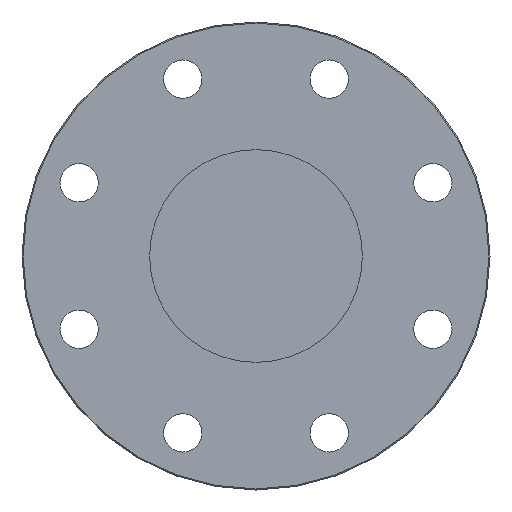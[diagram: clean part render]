
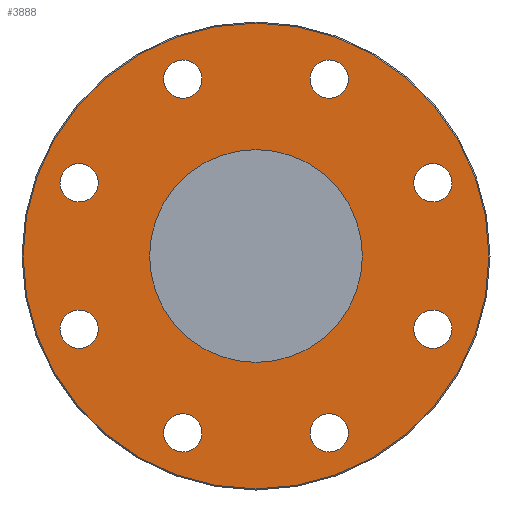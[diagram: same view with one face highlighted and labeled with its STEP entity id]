
A CAD part, left-side view. The second image highlights one B-rep face of the part: STEP entity #3888.
In plain terms, the highlighted planar face has unit normal (-1, 0, 0).
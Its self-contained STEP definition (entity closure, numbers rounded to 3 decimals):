
#137=CIRCLE('',#4116,9.);
#138=CIRCLE('',#4117,9.);
#140=CIRCLE('',#4121,9.);
#141=CIRCLE('',#4122,9.);
#143=CIRCLE('',#4126,9.);
#144=CIRCLE('',#4127,9.);
#146=CIRCLE('',#4131,9.);
#147=CIRCLE('',#4132,9.);
#149=CIRCLE('',#4136,9.);
#150=CIRCLE('',#4137,9.);
#152=CIRCLE('',#4141,9.);
#153=CIRCLE('',#4142,9.);
#155=CIRCLE('',#4146,9.);
#156=CIRCLE('',#4147,9.);
#158=CIRCLE('',#4151,9.);
#159=CIRCLE('',#4152,9.);
#173=CIRCLE('',#4174,109.5);
#174=CIRCLE('',#4176,50.);
#964=FACE_BOUND('',#1429,.T.);
#965=FACE_BOUND('',#1430,.T.);
#966=FACE_BOUND('',#1431,.T.);
#967=FACE_BOUND('',#1432,.T.);
#968=FACE_BOUND('',#1433,.T.);
#969=FACE_BOUND('',#1434,.T.);
#970=FACE_BOUND('',#1435,.T.);
#971=FACE_BOUND('',#1436,.T.);
#972=FACE_BOUND('',#1437,.T.);
#1174=FACE_OUTER_BOUND('',#1428,.T.);
#1428=EDGE_LOOP('',(#3514));
#1429=EDGE_LOOP('',(#3515,#3516));
#1430=EDGE_LOOP('',(#3517,#3518));
#1431=EDGE_LOOP('',(#3519,#3520));
#1432=EDGE_LOOP('',(#3521,#3522));
#1433=EDGE_LOOP('',(#3523,#3524));
#1434=EDGE_LOOP('',(#3525,#3526));
#1435=EDGE_LOOP('',(#3527,#3528));
#1436=EDGE_LOOP('',(#3529,#3530));
#1437=EDGE_LOOP('',(#3531));
#1860=VERTEX_POINT('',#6943);
#1861=VERTEX_POINT('',#6944);
#1863=VERTEX_POINT('',#6953);
#1864=VERTEX_POINT('',#6954);
#1866=VERTEX_POINT('',#6963);
#1867=VERTEX_POINT('',#6964);
#1869=VERTEX_POINT('',#6973);
#1870=VERTEX_POINT('',#6974);
#1872=VERTEX_POINT('',#6983);
#1873=VERTEX_POINT('',#6984);
#1875=VERTEX_POINT('',#6993);
#1876=VERTEX_POINT('',#6994);
#1878=VERTEX_POINT('',#7003);
#1879=VERTEX_POINT('',#7004);
#1881=VERTEX_POINT('',#7013);
#1882=VERTEX_POINT('',#7014);
#1896=VERTEX_POINT('',#7058);
#1897=VERTEX_POINT('',#7062);
#2385=EDGE_CURVE('',#1860,#1861,#137,.T.);
#2386=EDGE_CURVE('',#1861,#1860,#138,.T.);
#2390=EDGE_CURVE('',#1863,#1864,#140,.T.);
#2391=EDGE_CURVE('',#1864,#1863,#141,.T.);
#2395=EDGE_CURVE('',#1866,#1867,#143,.T.);
#2396=EDGE_CURVE('',#1867,#1866,#144,.T.);
#2400=EDGE_CURVE('',#1869,#1870,#146,.T.);
#2401=EDGE_CURVE('',#1870,#1869,#147,.T.);
#2405=EDGE_CURVE('',#1872,#1873,#149,.T.);
#2406=EDGE_CURVE('',#1873,#1872,#150,.T.);
#2410=EDGE_CURVE('',#1875,#1876,#152,.T.);
#2411=EDGE_CURVE('',#1876,#1875,#153,.T.);
#2415=EDGE_CURVE('',#1878,#1879,#155,.T.);
#2416=EDGE_CURVE('',#1879,#1878,#156,.T.);
#2420=EDGE_CURVE('',#1881,#1882,#158,.T.);
#2421=EDGE_CURVE('',#1882,#1881,#159,.T.);
#2443=EDGE_CURVE('',#1896,#1896,#173,.T.);
#2444=EDGE_CURVE('',#1897,#1897,#174,.T.);
#3514=ORIENTED_EDGE('',*,*,#2443,.F.);
#3515=ORIENTED_EDGE('',*,*,#2385,.T.);
#3516=ORIENTED_EDGE('',*,*,#2386,.T.);
#3517=ORIENTED_EDGE('',*,*,#2390,.T.);
#3518=ORIENTED_EDGE('',*,*,#2391,.T.);
#3519=ORIENTED_EDGE('',*,*,#2395,.T.);
#3520=ORIENTED_EDGE('',*,*,#2396,.T.);
#3521=ORIENTED_EDGE('',*,*,#2400,.T.);
#3522=ORIENTED_EDGE('',*,*,#2401,.T.);
#3523=ORIENTED_EDGE('',*,*,#2405,.T.);
#3524=ORIENTED_EDGE('',*,*,#2406,.T.);
#3525=ORIENTED_EDGE('',*,*,#2410,.T.);
#3526=ORIENTED_EDGE('',*,*,#2411,.T.);
#3527=ORIENTED_EDGE('',*,*,#2415,.T.);
#3528=ORIENTED_EDGE('',*,*,#2416,.T.);
#3529=ORIENTED_EDGE('',*,*,#2420,.T.);
#3530=ORIENTED_EDGE('',*,*,#2421,.T.);
#3531=ORIENTED_EDGE('',*,*,#2444,.T.);
#3665=PLANE('',#4175);
#3888=ADVANCED_FACE('',(#1174,#964,#965,#966,#967,#968,#969,#970,#971,#972),
#3665,.T.);
#4116=AXIS2_PLACEMENT_3D('',#6945,#4909,#4910);
#4117=AXIS2_PLACEMENT_3D('',#6946,#4911,#4912);
#4121=AXIS2_PLACEMENT_3D('',#6955,#4921,#4922);
#4122=AXIS2_PLACEMENT_3D('',#6956,#4923,#4924);
#4126=AXIS2_PLACEMENT_3D('',#6965,#4933,#4934);
#4127=AXIS2_PLACEMENT_3D('',#6966,#4935,#4936);
#4131=AXIS2_PLACEMENT_3D('',#6975,#4945,#4946);
#4132=AXIS2_PLACEMENT_3D('',#6976,#4947,#4948);
#4136=AXIS2_PLACEMENT_3D('',#6985,#4957,#4958);
#4137=AXIS2_PLACEMENT_3D('',#6986,#4959,#4960);
#4141=AXIS2_PLACEMENT_3D('',#6995,#4969,#4970);
#4142=AXIS2_PLACEMENT_3D('',#6996,#4971,#4972);
#4146=AXIS2_PLACEMENT_3D('',#7005,#4981,#4982);
#4147=AXIS2_PLACEMENT_3D('',#7006,#4983,#4984);
#4151=AXIS2_PLACEMENT_3D('',#7015,#4993,#4994);
#4152=AXIS2_PLACEMENT_3D('',#7016,#4995,#4996);
#4174=AXIS2_PLACEMENT_3D('',#7060,#5047,#5048);
#4175=AXIS2_PLACEMENT_3D('',#7061,#5049,#5050);
#4176=AXIS2_PLACEMENT_3D('',#7063,#5051,#5052);
#4909=DIRECTION('center_axis',(1.,0.,0.));
#4910=DIRECTION('ref_axis',(0.,0.,1.));
#4911=DIRECTION('center_axis',(1.,0.,0.));
#4912=DIRECTION('ref_axis',(0.,0.,1.));
#4921=DIRECTION('center_axis',(1.,0.,0.));
#4922=DIRECTION('ref_axis',(0.,0.,1.));
#4923=DIRECTION('center_axis',(1.,0.,0.));
#4924=DIRECTION('ref_axis',(0.,0.,1.));
#4933=DIRECTION('center_axis',(1.,0.,0.));
#4934=DIRECTION('ref_axis',(0.,0.,1.));
#4935=DIRECTION('center_axis',(1.,0.,0.));
#4936=DIRECTION('ref_axis',(0.,0.,1.));
#4945=DIRECTION('center_axis',(1.,0.,0.));
#4946=DIRECTION('ref_axis',(0.,0.,1.));
#4947=DIRECTION('center_axis',(1.,0.,0.));
#4948=DIRECTION('ref_axis',(0.,0.,1.));
#4957=DIRECTION('center_axis',(1.,0.,0.));
#4958=DIRECTION('ref_axis',(0.,0.,1.));
#4959=DIRECTION('center_axis',(1.,0.,0.));
#4960=DIRECTION('ref_axis',(0.,0.,1.));
#4969=DIRECTION('center_axis',(1.,0.,0.));
#4970=DIRECTION('ref_axis',(0.,0.,1.));
#4971=DIRECTION('center_axis',(1.,0.,0.));
#4972=DIRECTION('ref_axis',(0.,0.,1.));
#4981=DIRECTION('center_axis',(1.,0.,0.));
#4982=DIRECTION('ref_axis',(0.,0.,1.));
#4983=DIRECTION('center_axis',(1.,0.,0.));
#4984=DIRECTION('ref_axis',(0.,0.,1.));
#4993=DIRECTION('center_axis',(1.,0.,0.));
#4994=DIRECTION('ref_axis',(0.,0.,1.));
#4995=DIRECTION('center_axis',(1.,0.,0.));
#4996=DIRECTION('ref_axis',(0.,0.,1.));
#5047=DIRECTION('center_axis',(1.,0.,0.));
#5048=DIRECTION('ref_axis',(0.,-1.,0.));
#5049=DIRECTION('center_axis',(-1.,0.,0.));
#5050=DIRECTION('ref_axis',(0.,0.,1.));
#5051=DIRECTION('center_axis',(1.,0.,0.));
#5052=DIRECTION('ref_axis',(0.,0.,-1.));
#6943=CARTESIAN_POINT('',(-72.5,83.149,43.442));
#6944=CARTESIAN_POINT('',(-72.5,83.149,25.442));
#6945=CARTESIAN_POINT('Origin',(-72.5,83.149,34.442));
#6946=CARTESIAN_POINT('Origin',(-72.5,83.149,34.442));
#6953=CARTESIAN_POINT('',(-72.5,34.442,92.149));
#6954=CARTESIAN_POINT('',(-72.5,34.442,74.149));
#6955=CARTESIAN_POINT('Origin',(-72.5,34.442,83.149));
#6956=CARTESIAN_POINT('Origin',(-72.5,34.442,83.149));
#6963=CARTESIAN_POINT('',(-72.5,-34.442,92.149));
#6964=CARTESIAN_POINT('',(-72.5,-34.442,74.149));
#6965=CARTESIAN_POINT('Origin',(-72.5,-34.442,83.149));
#6966=CARTESIAN_POINT('Origin',(-72.5,-34.442,83.149));
#6973=CARTESIAN_POINT('',(-72.5,-83.149,43.442));
#6974=CARTESIAN_POINT('',(-72.5,-83.149,25.442));
#6975=CARTESIAN_POINT('Origin',(-72.5,-83.149,34.442));
#6976=CARTESIAN_POINT('Origin',(-72.5,-83.149,34.442));
#6983=CARTESIAN_POINT('',(-72.5,-83.149,-25.442));
#6984=CARTESIAN_POINT('',(-72.5,-83.149,-43.442));
#6985=CARTESIAN_POINT('Origin',(-72.5,-83.149,-34.442));
#6986=CARTESIAN_POINT('Origin',(-72.5,-83.149,-34.442));
#6993=CARTESIAN_POINT('',(-72.5,-34.442,-74.149));
#6994=CARTESIAN_POINT('',(-72.5,-34.442,-92.149));
#6995=CARTESIAN_POINT('Origin',(-72.5,-34.442,-83.149));
#6996=CARTESIAN_POINT('Origin',(-72.5,-34.442,-83.149));
#7003=CARTESIAN_POINT('',(-72.5,34.442,-74.149));
#7004=CARTESIAN_POINT('',(-72.5,34.442,-92.149));
#7005=CARTESIAN_POINT('Origin',(-72.5,34.442,-83.149));
#7006=CARTESIAN_POINT('Origin',(-72.5,34.442,-83.149));
#7013=CARTESIAN_POINT('',(-72.5,83.149,-25.442));
#7014=CARTESIAN_POINT('',(-72.5,83.149,-43.442));
#7015=CARTESIAN_POINT('Origin',(-72.5,83.149,-34.442));
#7016=CARTESIAN_POINT('Origin',(-72.5,83.149,-34.442));
#7058=CARTESIAN_POINT('',(-72.5,109.5,0.));
#7060=CARTESIAN_POINT('Origin',(-72.5,0.,0.));
#7061=CARTESIAN_POINT('Origin',(-72.5,55.,0.));
#7062=CARTESIAN_POINT('',(-72.5,0.,50.));
#7063=CARTESIAN_POINT('Origin',(-72.5,0.,0.));
